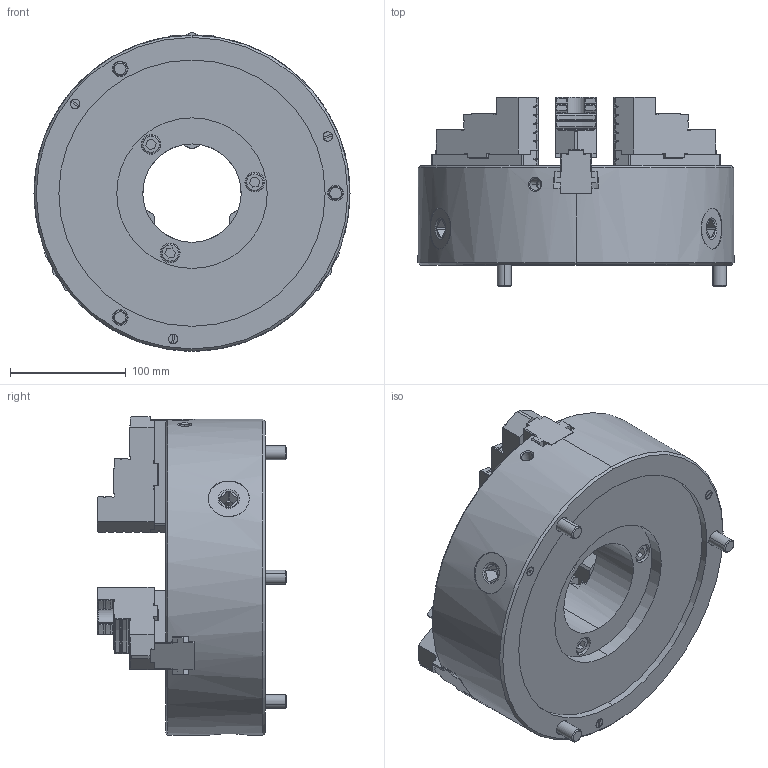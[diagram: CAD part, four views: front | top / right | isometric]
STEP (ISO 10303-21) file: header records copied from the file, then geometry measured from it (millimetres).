
FILE_DESCRIPTION (( 'STEP AP214' ), '1' );
FILE_NAME ('61S263388_JN10TN.STEP', '2026-03-18T06:39:04', ( '' ), ( '' ), 'SwSTEP 2.0', 'SolidWorks 2022', '' );
FILE_SCHEMA (( 'AUTOMOTIVE_DESIGN' ));
Length unit declared in the file: millimetre
Products named in the file (5): 0030112025; Part20^61S263388_JN10TN; DT1_61S313821; 61S263388_JN10TN; DT1_61S313820
Assembly tree (13 placements, depth 2):
  61S263388_JN10TN
    DT1_61S313820  x3
    DT1_61S313821  x3
    Part20^61S263388_JN10TN
    0030112025  x6
Bounding box: 273 x 163.5 x 275 mm (x, y, z)
Volume: 4570964.1 mm3; surface area: 380797 mm2
Topology: 13 solids, 13 shells, 1119 faces, 3083 edges, 2001 vertices
Faces by surface type: plane 593, cylinder 255, cone 221, torus 46, sphere 4
Entity records: 18662 total; most frequent: CARTESIAN_POINT 4733, ORIENTED_EDGE 2920, DIRECTION 2715, EDGE_CURVE 1460, VERTEX_POINT 959, AXIS2_PLACEMENT_3D 952, VECTOR 811, LINE 811
